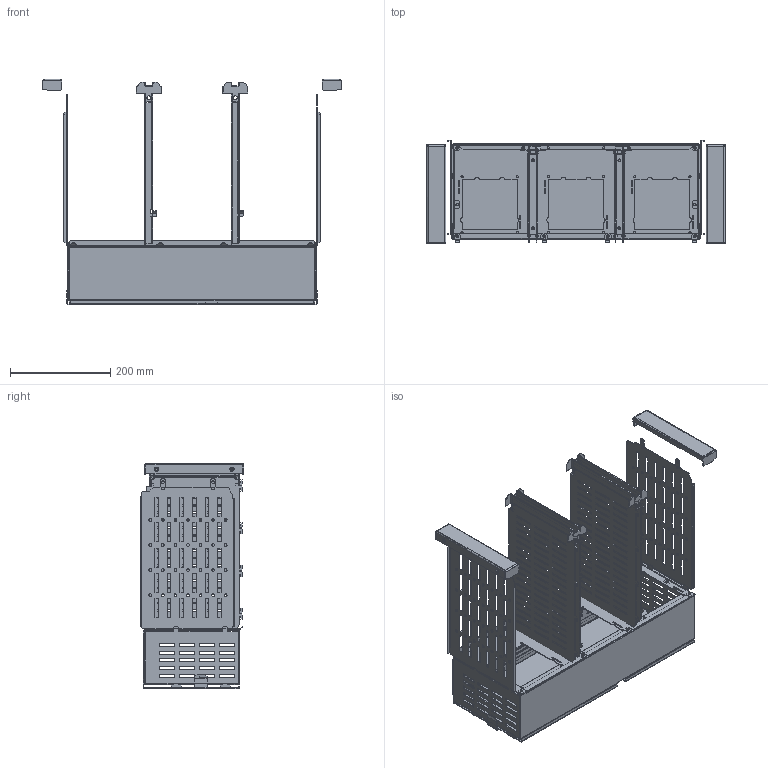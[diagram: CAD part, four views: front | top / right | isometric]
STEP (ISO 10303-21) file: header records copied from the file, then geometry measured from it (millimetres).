
FILE_DESCRIPTION(('CAx-IF Rec.Pracs.---Model Styling and Organization---1.2---2011-12-15','CAx-IF Rec.Pracs.---Geometric and Assembly Validation Properties---4.1---2014-06-16','CAx-IF Rec.Pracs.---PMI Polyline Presentation---2.0---2013-05-24'),'2;1');
FILE_NAME('R5M2W4M3A.stp','2021-05-05T12:22:50+03:00',(''),(''),'STEP Interface 4.4 by CT CoreTechnologie','3D_Evolution4.4 by CT CoreTechnologie','');
FILE_SCHEMA(('AUTOMOTIVE_DESIGN { 1 0 10303 214 1 1 1 1 }'));
Length unit declared in the file: millimetre
Products named in the file (13): R5M2W4M3A; RB.1622.00.00.0_-00; RB.1426.00.00.0_-00; RB.1285.00.00.0_-04; RB.1285.00.00.0_-05; RB.1251.00.00.0_-02 (for assembly); RB.1252.00.00.0_-02; RB.1282.00.00.0_-02; ÒÏÀ.09.0004.00.00.2_¡¥§ § æ¥¯®¢; RB.1599.00.00.0_-02; RB.1421.00.00.0_-02; RB.0908.00.00.0_-02; RB.1246.00.00.0_-02
Assembly tree (22 placements, depth 2):
  R5M2W4M3A
    RB.1622.00.00.0_-00
    RB.1426.00.00.0_-00  x4
    RB.1285.00.00.0_-04
    RB.1285.00.00.0_-05
    RB.1251.00.00.0_-02 (for assembly)  x2
    RB.1252.00.00.0_-02  x2
    RB.1282.00.00.0_-02  x2
    ÒÏÀ.09.0004.00.00.2_¡¥§ § æ¥¯®¢  x4
    RB.1599.00.00.0_-02
    RB.1421.00.00.0_-02
    RB.0908.00.00.0_-02  x2
    RB.1246.00.00.0_-02
Bounding box: 594 x 206 x 448.5 mm (x, y, z)
Surface area: 1560419.3 mm2 (no closed solid volume)
Topology: 0 solids, 24 shells, 3520 faces, 10016 edges, 6512 vertices
Faces by surface type: plane 2619, cylinder 577, bspline 324
Entity records: 79109 total; most frequent: CARTESIAN_POINT 15600, ORIENTED_EDGE 13348, DIRECTION 12042, EDGE_CURVE 6676, VECTOR 5682, LINE 5682, VERTEX_POINT 4382, AXIS2_PLACEMENT_3D 3180
